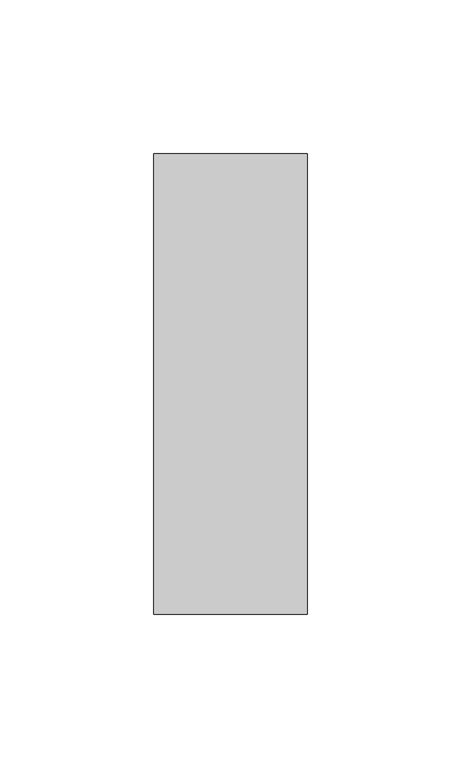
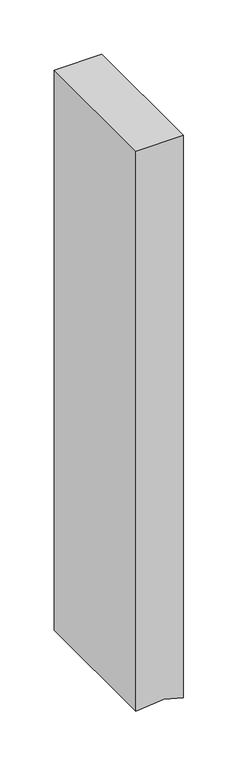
"""IFC4 building model written with IfcOpenShell, lengths in millimetres: member geometry, Прямоугольный импост : 50 x 150 мм."""

from ifc_helpers import new_model, si_unit, frame, origin, place, context, project, spatial, polyline, outline, extrude, source, transform, mapped, element, save


def member_47a48416(model_context):
    return source(origin(), model_context, "Body", "SweptSolid", [
        extrude(outline(polyline([(0.0, 25.0), (0.0, -25.0), (-628.4470018, -25.0), (-625.3299915, 4.3363541), (-631.1904839, 25.0), (0.0, 25.0)])), frame((0.0, -75.0, 0.0), z_axis=(0.0, 1.0, 0.0), x_axis=(0.0, 0.0, 1.0)), (0.0, 0.0, 1.0), 150.0),
    ])


if __name__ == "__main__":
    model = new_model("IFC4")
    model_context = context("Model", 3, world=origin())
    ifc_project = project(units=[si_unit("LENGTHUNIT", "METRE", prefix="MILLI")], contexts=[model_context])
    site = spatial("IfcSite", under=ifc_project)
    building = spatial("IfcBuilding", under=site)
    placement = place(None, origin())
    member_shape = member_47a48416(model_context)
    element("IfcMember", 1, ObjectType="Прямоугольный импост : 50 x 150 мм", at=placement, inside=building, context=model_context, shape_type="MappedRepresentation", body=[
        mapped(member_shape, transform((0.0, 0.0, 0.0), x_axis=(1.0, 0.0, 0.0), y_axis=(0.0, 1.0, 0.0), z_axis=(0.0, 0.0, 1.0))),
    ])
    save(model, "model.ifc")
